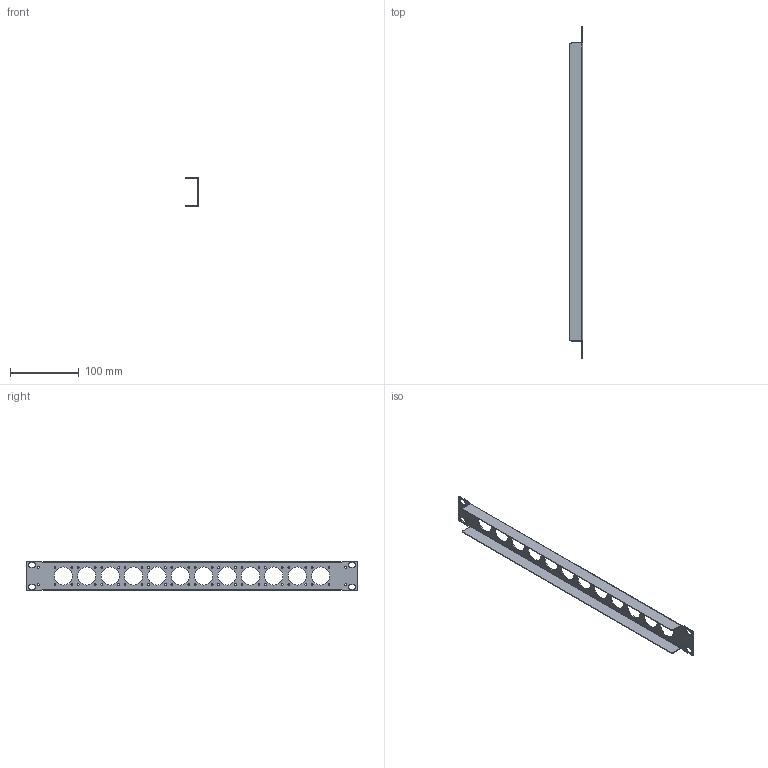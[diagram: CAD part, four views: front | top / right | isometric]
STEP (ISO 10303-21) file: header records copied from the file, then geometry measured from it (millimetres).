
FILE_DESCRIPTION (( 'STEP AP214' ), '1' );
FILE_NAME ('Z-EN-10-RP.STEP', '2015-01-27T13:31:37', ( 'Orametrix' ), ( 'Orametrix' ), 'SwSTEP 2.0', 'SolidWorks 2014', '' );
FILE_SCHEMA (( 'AUTOMOTIVE_DESIGN' ));
Length unit declared in the file: millimetre
Products named in the file (1): Z-EN-10-RP
Bounding box: 19 x 482.6 x 43.6 mm (x, y, z)
Volume: 28258.2 mm3; surface area: 59169.8 mm2
Topology: 1 solids, 1 shells, 186 faces, 544 edges, 360 vertices
Faces by surface type: cylinder 148, plane 38
Entity records: 6626 total; most frequent: DIRECTION 1214, CARTESIAN_POINT 1091, ORIENTED_EDGE 1088, EDGE_CURVE 544, AXIS2_PLACEMENT_3D 483, VERTEX_POINT 360, EDGE_LOOP 322, CIRCLE 296
